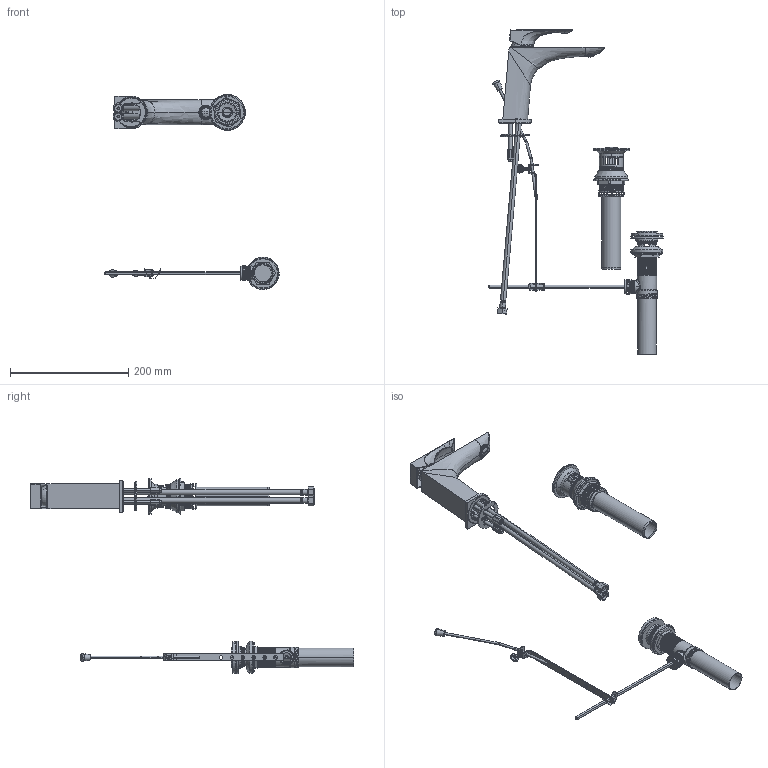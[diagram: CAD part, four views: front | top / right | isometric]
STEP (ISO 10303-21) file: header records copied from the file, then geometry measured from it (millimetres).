
FILE_DESCRIPTION (( 'STEP AP214' ), '1' );
FILE_NAME ('SLS4912.STEP', '2025-01-02T02:28:32', ( '' ), ( '' ), 'SwSTEP 2.0', 'SolidWorks 2023', '' );
FILE_SCHEMA (( 'AUTOMOTIVE_DESIGN' ));
Products named in the file (1): SLS4912
Bounding box: 295.42 x 548.78 x 330.81 mm (x, y, z)
Surface area: 220881.6 mm2 (no closed solid volume)
Topology: 0 solids, 122 shells, 523 faces, 2904 edges, 2404 vertices
Faces by surface type: cylinder 202, plane 184, bspline 84, cone 26, torus 25, sphere 2
Entity records: 78344 total; most frequent: CARTESIAN_POINT 60129, ORIENTED_EDGE 3703, EDGE_CURVE 2898, DIRECTION 2581, VERTEX_POINT 2404, B_SPLINE_CURVE_WITH_KNOTS 1358, AXIS2_PLACEMENT_3D 920, LINE 741
